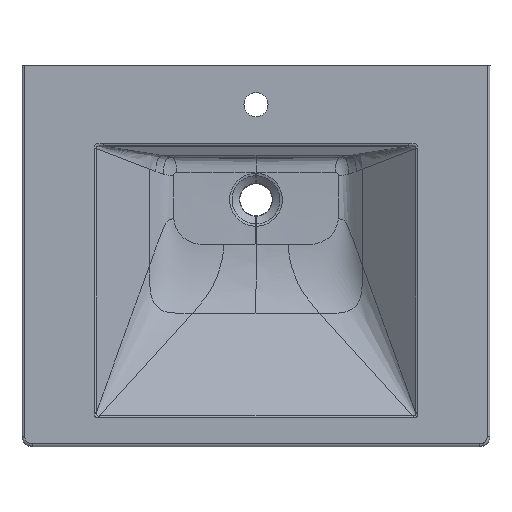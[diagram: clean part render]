
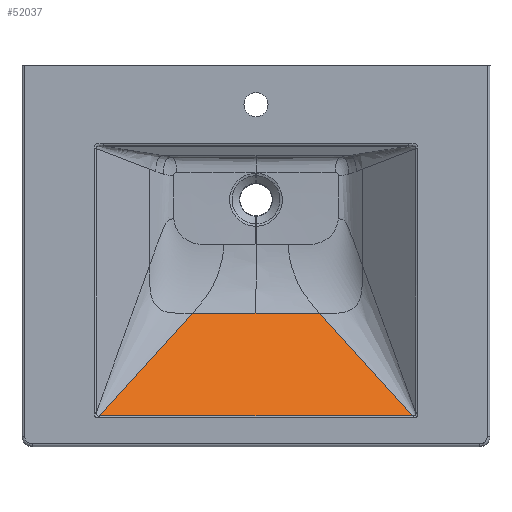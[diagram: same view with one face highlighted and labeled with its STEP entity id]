
A CAD part, front view. The second image highlights one B-rep face of the part: STEP entity #52037.
In plain terms, the highlighted planar face has unit normal (0, -0.903, 0.43).
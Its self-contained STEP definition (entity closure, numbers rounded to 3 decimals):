
#32 = CARTESIAN_POINT ( 'NONE',  ( 95.091, -13.309, -283.835 ) ) ;
#1034 = CARTESIAN_POINT ( 'NONE',  ( 0., -13.309, -283.835 ) ) ;
#2292 = ORIENTED_EDGE ( 'NONE', *, *, #36662, .F. ) ;
#2659 = VECTOR ( 'NONE', #52597, 1000. ) ;
#2829 = LINE ( 'NONE', #54905, #36824 ) ;
#3016 = VECTOR ( 'NONE', #13211, 1000. ) ;
#3753 = CARTESIAN_POINT ( 'NONE',  ( -95.091, -13.309, -283.835 ) ) ;
#4252 = CARTESIAN_POINT ( 'NONE',  ( 0., -13.309, -283.835 ) ) ;
#8692 = DIRECTION ( 'NONE',  ( 0., -0.43, -0.903 ) ) ;
#8841 = DIRECTION ( 'NONE',  ( -1., 0., 0. ) ) ;
#10385 = ORIENTED_EDGE ( 'NONE', *, *, #49756, .T. ) ;
#12321 = EDGE_LOOP ( 'NONE', ( #19734, #10385, #57065, #26882, #2292 ) ) ;
#12874 = CARTESIAN_POINT ( 'NONE',  ( -95.091, -13.309, -283.835 ) ) ;
#13211 = DIRECTION ( 'NONE',  ( 0.634, 0.333, 0.698 ) ) ;
#14753 = LINE ( 'NONE', #3753, #3016 ) ;
#15086 = LINE ( 'NONE', #39887, #25550 ) ;
#17081 = EDGE_CURVE ( 'NONE', #26046, #31853, #40839, .T. ) ;
#17331 = FACE_OUTER_BOUND ( 'NONE', #12321, .T. ) ;
#19734 = ORIENTED_EDGE ( 'NONE', *, *, #22457, .F. ) ;
#20185 = VECTOR ( 'NONE', #53387, 1000. ) ;
#21556 = CARTESIAN_POINT ( 'NONE',  ( 233.818, -13.309, -283.835 ) ) ;
#21583 = LINE ( 'NONE', #32, #20185 ) ;
#21765 = AXIS2_PLACEMENT_3D ( 'NONE', #4252, #35262, #8692 ) ;
#22457 = EDGE_CURVE ( 'NONE', #23854, #38358, #15086, .T. ) ;
#23854 = VERTEX_POINT ( 'NONE', #44709 ) ;
#25506 = VERTEX_POINT ( 'NONE', #12874 ) ;
#25550 = VECTOR ( 'NONE', #8841, 1000. ) ;
#26046 = VERTEX_POINT ( 'NONE', #1034 ) ;
#26882 = ORIENTED_EDGE ( 'NONE', *, *, #50377, .T. ) ;
#31853 = VERTEX_POINT ( 'NONE', #33737 ) ;
#33737 = CARTESIAN_POINT ( 'NONE',  ( 95.091, -13.309, -283.835 ) ) ;
#35262 = DIRECTION ( 'NONE',  ( 0., -0.903, 0.43 ) ) ;
#36662 = EDGE_CURVE ( 'NONE', #38358, #25506, #14753, .T. ) ;
#36824 = VECTOR ( 'NONE', #41707, 1000. ) ;
#38358 = VERTEX_POINT ( 'NONE', #55962 ) ;
#39887 = CARTESIAN_POINT ( 'NONE',  ( 119.086, -86.11, -436.696 ) ) ;
#40839 = LINE ( 'NONE', #21556, #2659 ) ;
#41707 = DIRECTION ( 'NONE',  ( -1., 0., 0. ) ) ;
#43997 = PLANE ( 'NONE',  #21765 ) ;
#44709 = CARTESIAN_POINT ( 'NONE',  ( 233.818, -86.11, -436.696 ) ) ;
#49756 = EDGE_CURVE ( 'NONE', #23854, #31853, #21583, .T. ) ;
#50377 = EDGE_CURVE ( 'NONE', #26046, #25506, #2829, .T. ) ;
#52037 = ADVANCED_FACE ( 'NONE', ( #17331 ), #43997, .T. ) ;
#52597 = DIRECTION ( 'NONE',  ( 1., 0., 0. ) ) ;
#53387 = DIRECTION ( 'NONE',  ( -0.634, 0.333, 0.698 ) ) ;
#54905 = CARTESIAN_POINT ( 'NONE',  ( -233.818, -13.309, -283.835 ) ) ;
#55962 = CARTESIAN_POINT ( 'NONE',  ( -233.818, -86.11, -436.696 ) ) ;
#57065 = ORIENTED_EDGE ( 'NONE', *, *, #17081, .F. ) ;
